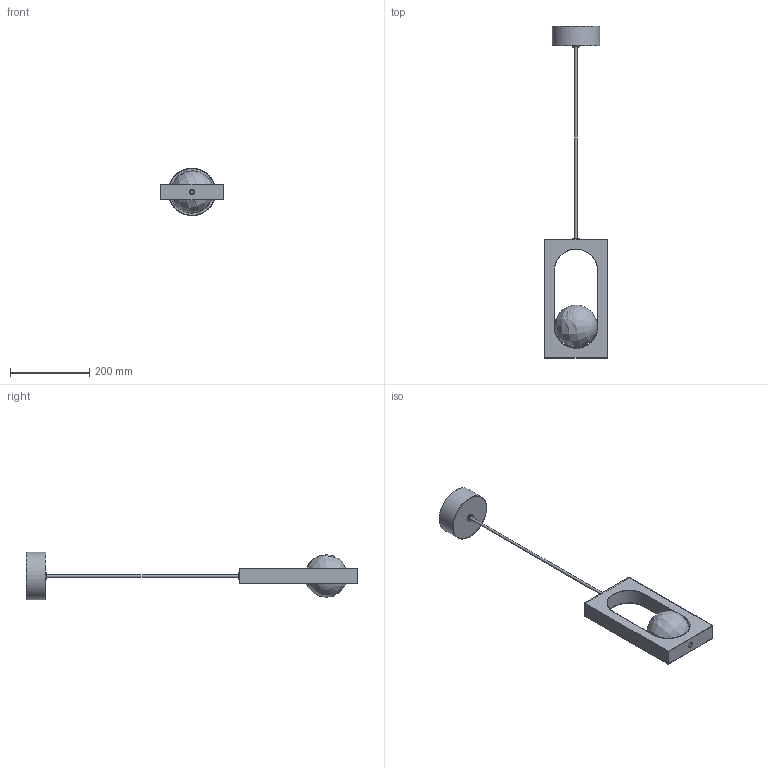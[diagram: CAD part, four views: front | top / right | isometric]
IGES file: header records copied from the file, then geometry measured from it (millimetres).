
Global section: file name: MYTHOS PENDANT; native system: Autodesk Inventor 2023; preprocessor: unknown; author: Peter Larkam; date: 20240715.140852; units: millimetre
Bounding box: 160 x 839.5 x 119.97 mm (x, y, z)
Volume: 313212.4 mm3; surface area: 346229.6 mm2
Topology: 6 solids, 6 shells, 101 faces, 236 edges, 153 vertices
Faces by surface type: bspline 101
